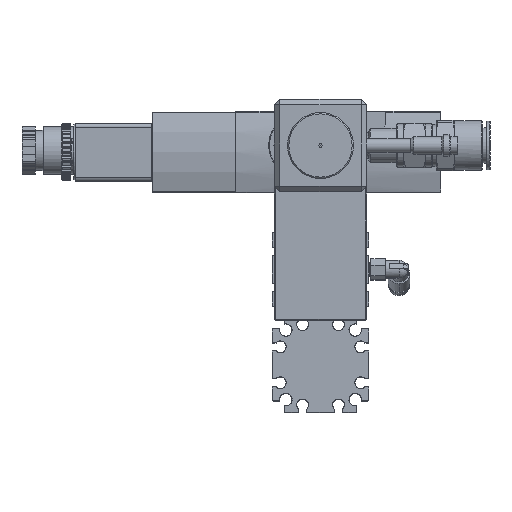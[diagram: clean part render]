
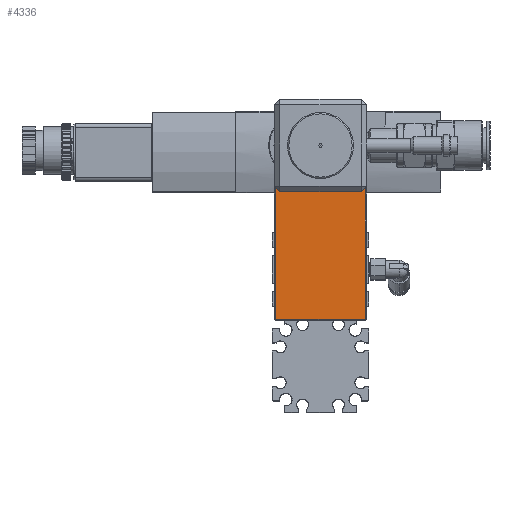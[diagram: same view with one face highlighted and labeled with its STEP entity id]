
A CAD part, front view. The second image highlights one B-rep face of the part: STEP entity #4336.
In plain terms, the highlighted planar face has unit normal (0, -1, 0).
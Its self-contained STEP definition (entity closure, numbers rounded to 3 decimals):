
#1691 = VECTOR ( 'NONE', #25234, 1000. ) ;
#3253 = CARTESIAN_POINT ( 'NONE',  ( -15.5, 20., -17. ) ) ;
#3375 = CARTESIAN_POINT ( 'NONE',  ( 17., 20., -66. ) ) ;
#4336 = ADVANCED_FACE ( 'NONE', ( #43715 ), #34920, .F. ) ;
#5167 = VERTEX_POINT ( 'NONE', #17802 ) ;
#5296 = DIRECTION ( 'NONE',  ( 0., 0., -1. ) ) ;
#5585 = CARTESIAN_POINT ( 'NONE',  ( -17., 20., -24.5 ) ) ;
#7367 = EDGE_CURVE ( 'NONE', #5167, #18148, #19731, .T. ) ;
#8220 = ORIENTED_EDGE ( 'NONE', *, *, #7367, .T. ) ;
#8510 = ORIENTED_EDGE ( 'NONE', *, *, #48976, .T. ) ;
#9201 = EDGE_CURVE ( 'NONE', #36770, #32055, #26234, .T. ) ;
#9839 = CARTESIAN_POINT ( 'NONE',  ( -17., 20., -66. ) ) ;
#11310 = EDGE_CURVE ( 'NONE', #18340, #36770, #14957, .T. ) ;
#14957 = LINE ( 'NONE', #5585, #34439 ) ;
#15906 = CARTESIAN_POINT ( 'NONE',  ( -15.293, 20., -17. ) ) ;
#17802 = CARTESIAN_POINT ( 'NONE',  ( 17., 20., -15.293 ) ) ;
#18148 = VERTEX_POINT ( 'NONE', #53888 ) ;
#18340 = VERTEX_POINT ( 'NONE', #39502 ) ;
#18482 = DIRECTION ( 'NONE',  ( -0.707, 0., 0.707 ) ) ;
#19731 = LINE ( 'NONE', #55682, #39772 ) ;
#22040 = DIRECTION ( 'NONE',  ( 0., 1., 0. ) ) ;
#22233 = VECTOR ( 'NONE', #48749, 1000. ) ;
#22818 = CARTESIAN_POINT ( 'NONE',  ( 17., 20., -24.5 ) ) ;
#25234 = DIRECTION ( 'NONE',  ( -1., 0., 0. ) ) ;
#26234 = LINE ( 'NONE', #26812, #22233 ) ;
#26628 = DIRECTION ( 'NONE',  ( 0., 0., 1. ) ) ;
#26812 = CARTESIAN_POINT ( 'NONE',  ( 0., 20., -66. ) ) ;
#26933 = LINE ( 'NONE', #22818, #56452 ) ;
#28827 = AXIS2_PLACEMENT_3D ( 'NONE', #40469, #22040, #35212 ) ;
#30200 = EDGE_CURVE ( 'NONE', #32055, #5167, #26933, .T. ) ;
#32055 = VERTEX_POINT ( 'NONE', #3375 ) ;
#33191 = DIRECTION ( 'NONE',  ( -0.707, 0., -0.707 ) ) ;
#34439 = VECTOR ( 'NONE', #5296, 1000. ) ;
#34920 = PLANE ( 'NONE',  #28827 ) ;
#35212 = DIRECTION ( 'NONE',  ( 0., 0., 1. ) ) ;
#36770 = VERTEX_POINT ( 'NONE', #9839 ) ;
#37109 = ORIENTED_EDGE ( 'NONE', *, *, #30200, .T. ) ;
#39502 = CARTESIAN_POINT ( 'NONE',  ( -17., 20., -15.293 ) ) ;
#39772 = VECTOR ( 'NONE', #33191, 1000. ) ;
#40469 = CARTESIAN_POINT ( 'NONE',  ( 0., 20., -24.5 ) ) ;
#42854 = ORIENTED_EDGE ( 'NONE', *, *, #9201, .T. ) ;
#43080 = LINE ( 'NONE', #3253, #1691 ) ;
#43459 = EDGE_LOOP ( 'NONE', ( #8510, #53929, #57201, #42854, #37109, #8220 ) ) ;
#43715 = FACE_OUTER_BOUND ( 'NONE', #43459, .T. ) ;
#45118 = CARTESIAN_POINT ( 'NONE',  ( -16.146, 20., -16.146 ) ) ;
#46611 = VERTEX_POINT ( 'NONE', #15906 ) ;
#48749 = DIRECTION ( 'NONE',  ( 1., 0., 0. ) ) ;
#48976 = EDGE_CURVE ( 'NONE', #18148, #46611, #43080, .T. ) ;
#50396 = LINE ( 'NONE', #45118, #52463 ) ;
#52463 = VECTOR ( 'NONE', #18482, 1000. ) ;
#53888 = CARTESIAN_POINT ( 'NONE',  ( 15.293, 20., -17. ) ) ;
#53929 = ORIENTED_EDGE ( 'NONE', *, *, #55279, .T. ) ;
#55279 = EDGE_CURVE ( 'NONE', #46611, #18340, #50396, .T. ) ;
#55682 = CARTESIAN_POINT ( 'NONE',  ( 16.146, 20., -16.146 ) ) ;
#56452 = VECTOR ( 'NONE', #26628, 1000. ) ;
#57201 = ORIENTED_EDGE ( 'NONE', *, *, #11310, .T. ) ;
